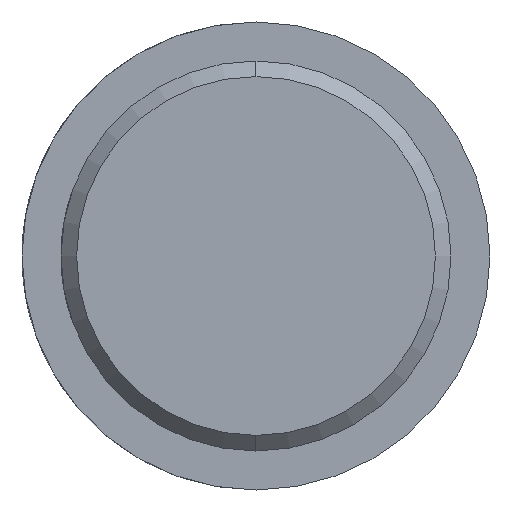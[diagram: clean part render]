
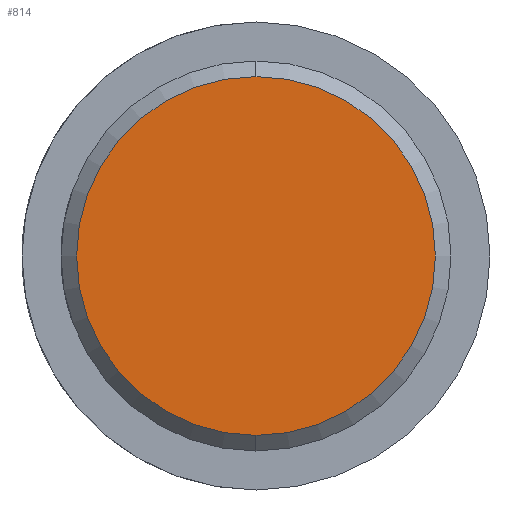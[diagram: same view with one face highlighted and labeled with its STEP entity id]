
A CAD part, left-side view. The second image highlights one B-rep face of the part: STEP entity #814.
In plain terms, the highlighted planar face has unit normal (-1, 0, 0).
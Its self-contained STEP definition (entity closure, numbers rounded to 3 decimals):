
#76 = CARTESIAN_POINT ( 'NONE',  ( 0., 0., -11.5 ) ) ;
#104 = VERTEX_POINT ( 'NONE', #76 ) ;
#116 = EDGE_CURVE ( 'NONE', #131, #104, #164, .T. ) ;
#131 = VERTEX_POINT ( 'NONE', #738 ) ;
#154 = AXIS2_PLACEMENT_3D ( 'NONE', #168, #158, #157 ) ;
#157 = DIRECTION ( 'NONE',  ( 0., 0., 1. ) ) ;
#158 = DIRECTION ( 'NONE',  ( -1., 0., 0. ) ) ;
#164 = CIRCLE ( 'NONE', #154, 11.5 ) ;
#168 = CARTESIAN_POINT ( 'NONE',  ( 0., 0., 0. ) ) ;
#412 = CARTESIAN_POINT ( 'NONE',  ( 0., 0., 0. ) ) ;
#467 = FACE_OUTER_BOUND ( 'NONE', #810, .T. ) ;
#468 = PLANE ( 'NONE',  #530 ) ;
#470 = AXIS2_PLACEMENT_3D ( 'NONE', #412, #480, #471 ) ;
#471 = DIRECTION ( 'NONE',  ( 0., 0., 1. ) ) ;
#476 = CIRCLE ( 'NONE', #470, 11.5 ) ;
#480 = DIRECTION ( 'NONE',  ( -1., 0., 0. ) ) ;
#518 = DIRECTION ( 'NONE',  ( 0., 0., 1. ) ) ;
#519 = DIRECTION ( 'NONE',  ( -1., 0., 0. ) ) ;
#520 = CARTESIAN_POINT ( 'NONE',  ( 0., 12.5, 0. ) ) ;
#530 = AXIS2_PLACEMENT_3D ( 'NONE', #520, #519, #518 ) ;
#738 = CARTESIAN_POINT ( 'NONE',  ( 0., 0., 11.5 ) ) ;
#808 = ORIENTED_EDGE ( 'NONE', *, *, #811, .T. ) ;
#810 = EDGE_LOOP ( 'NONE', ( #808, #835 ) ) ;
#811 = EDGE_CURVE ( 'NONE', #104, #131, #476, .T. ) ;
#814 = ADVANCED_FACE ( 'NONE', ( #467 ), #468, .T. ) ;
#835 = ORIENTED_EDGE ( 'NONE', *, *, #116, .T. ) ;
